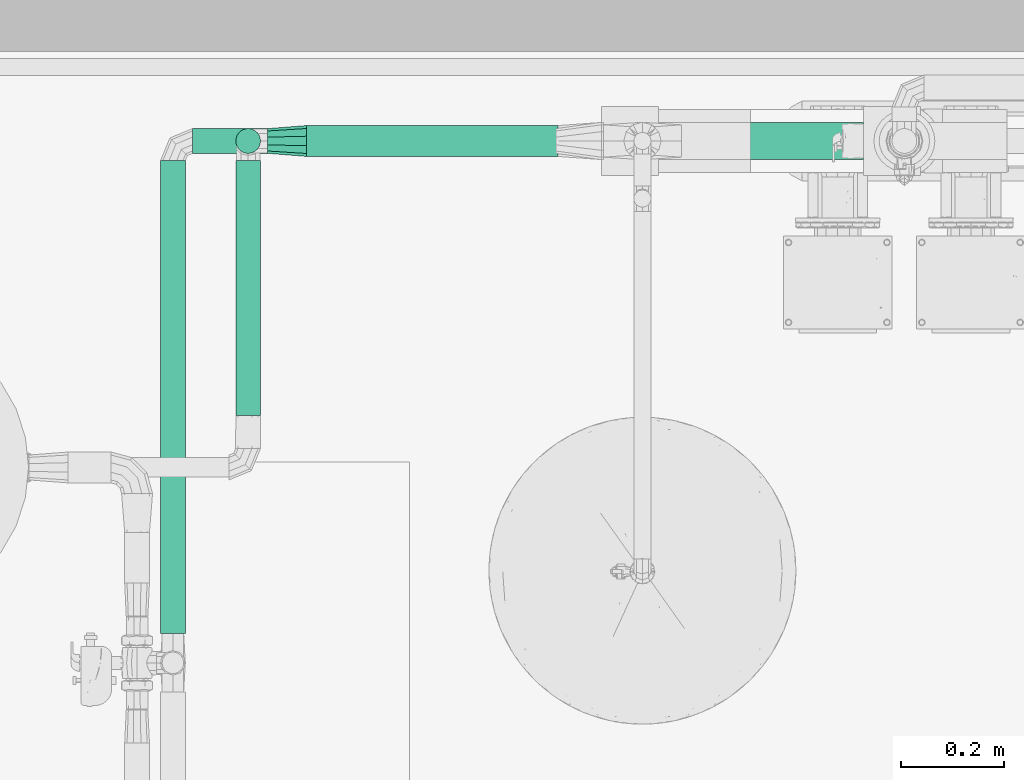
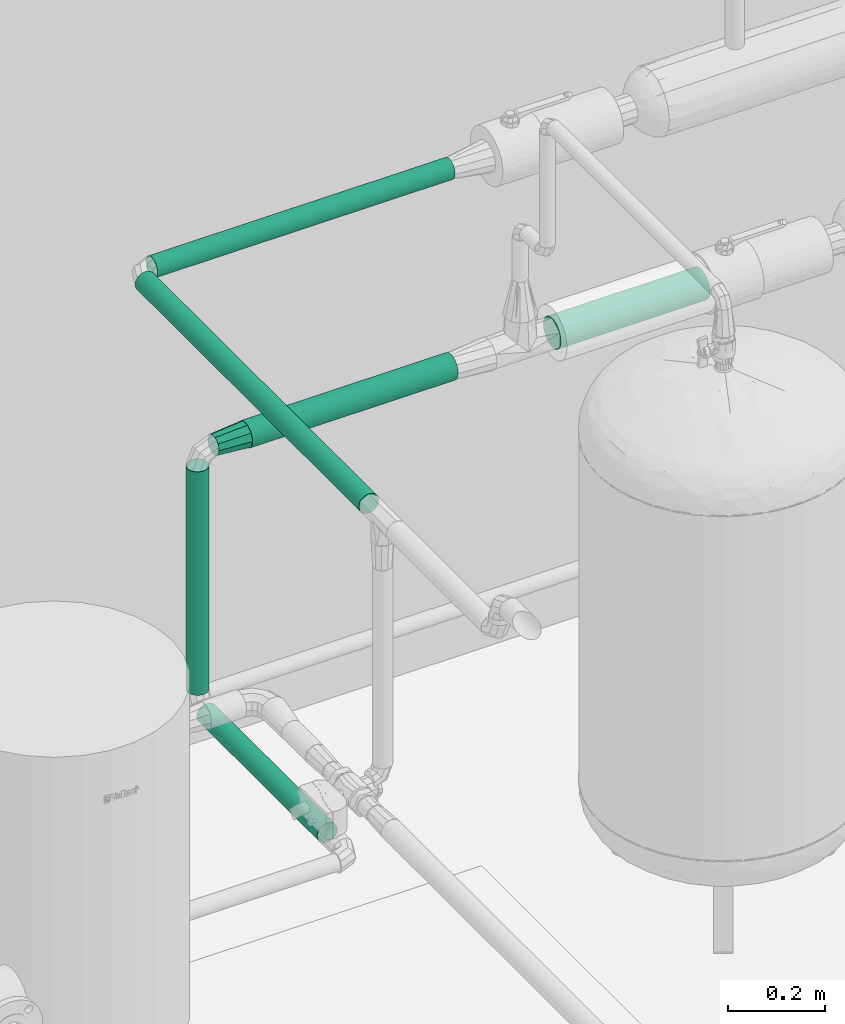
# One storey, part 70 of 94: 6 flow segments, 1 flow fitting.
"""IFC2X3 building model written with IfcOpenShell, lengths in millimetres."""

from ifc_helpers import new_model, entity, si_unit, converted_unit, derived_unit, direction, frame, frame_2d, origin, origin_2d_with_axis, place, context, subcontext, project, spatial, circle, extrude, faceted_brep, source, transform, mapped, material, type_object, type_shapes, element, save


model = new_model("IFC2X3")

# Units and contexts
model_context = context("Model", 3, precision=0.01, world=origin(), true_north=direction((6.123031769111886e-17, 1.0)))
body_context = subcontext(model_context, "Body", "Model", "MODEL_VIEW")
ifc_project = project(units=[si_unit("LENGTHUNIT", "METRE", prefix="MILLI"), si_unit("AREAUNIT", "SQUARE_METRE"), si_unit("VOLUMEUNIT", "CUBIC_METRE"), converted_unit("PLANEANGLEUNIT", "DEGREE", entity("IfcRatioMeasure", 0.017453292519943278), si_unit("PLANEANGLEUNIT", "RADIAN"), dimensions=[0, 0, 0, 0, 0, 0, 0]), si_unit("MASSUNIT", "GRAM", prefix="KILO"), derived_unit("MASSDENSITYUNIT", [(si_unit("MASSUNIT", "GRAM", prefix="KILO"), 1), (si_unit("LENGTHUNIT", "METRE"), -3)]), derived_unit("IONCONCENTRATIONUNIT", [(si_unit("MASSUNIT", "GRAM", prefix="KILO"), 1), (si_unit("LENGTHUNIT", "METRE"), -3)]), derived_unit("MOMENTOFINERTIAUNIT", [(si_unit("LENGTHUNIT", "METRE"), 4)]), si_unit("TIMEUNIT", "SECOND"), si_unit("FREQUENCYUNIT", "HERTZ"), si_unit("THERMODYNAMICTEMPERATUREUNIT", "DEGREE_CELSIUS"), derived_unit("THERMALTRANSMITTANCEUNIT", [(si_unit("MASSUNIT", "GRAM", prefix="KILO"), 1), (si_unit("THERMODYNAMICTEMPERATUREUNIT", "KELVIN"), -1), (si_unit("TIMEUNIT", "SECOND"), -3)]), derived_unit("THERMALCONDUCTANCEUNIT", [(si_unit("MASSUNIT", "GRAM", prefix="KILO"), 1), (si_unit("THERMODYNAMICTEMPERATUREUNIT", "KELVIN"), -1), (si_unit("TIMEUNIT", "SECOND"), -3), (si_unit("LENGTHUNIT", "METRE"), 1)]), derived_unit("VOLUMETRICFLOWRATEUNIT", [(si_unit("LENGTHUNIT", "METRE"), 3), (si_unit("TIMEUNIT", "SECOND"), -1)]), derived_unit("MASSFLOWRATEUNIT", [(si_unit("MASSUNIT", "GRAM", prefix="KILO"), 1), (si_unit("TIMEUNIT", "SECOND"), -1)]), derived_unit("ROTATIONALFREQUENCYUNIT", [(si_unit("TIMEUNIT", "SECOND"), -1)]), si_unit("ELECTRICCURRENTUNIT", "AMPERE"), si_unit("ELECTRICVOLTAGEUNIT", "VOLT"), si_unit("POWERUNIT", "WATT"), si_unit("FORCEUNIT", "NEWTON", prefix="KILO"), si_unit("ILLUMINANCEUNIT", "LUX"), si_unit("LUMINOUSFLUXUNIT", "LUMEN"), si_unit("LUMINOUSINTENSITYUNIT", "CANDELA"), derived_unit("USERDEFINED", [(si_unit("MASSUNIT", "GRAM", prefix="KILO"), -1), (si_unit("LENGTHUNIT", "METRE"), -2), (si_unit("TIMEUNIT", "SECOND"), 3), (si_unit("LUMINOUSFLUXUNIT", "LUMEN"), 1)]), derived_unit("USERDEFINED", [(si_unit("MASSUNIT", "GRAM", prefix="KILO"), 1), (si_unit("TIMEUNIT", "SECOND"), -3), (si_unit("LENGTHUNIT", "METRE"), 3), (si_unit("ELECTRICCURRENTUNIT", "AMPERE"), -2)]), derived_unit("SOUNDPOWERUNIT", [(si_unit("MASSUNIT", "GRAM", prefix="KILO"), 1), (si_unit("TIMEUNIT", "SECOND"), -3), (si_unit("LENGTHUNIT", "METRE"), 2)]), derived_unit("SOUNDPRESSUREUNIT", [(si_unit("MASSUNIT", "GRAM", prefix="KILO"), 1), (si_unit("LENGTHUNIT", "METRE"), -1), (si_unit("TIMEUNIT", "SECOND"), -2)]), derived_unit("LINEARVELOCITYUNIT", [(si_unit("LENGTHUNIT", "METRE"), 1), (si_unit("TIMEUNIT", "SECOND"), -1)]), si_unit("PRESSUREUNIT", "PASCAL"), derived_unit("USERDEFINED", [(si_unit("MASSUNIT", "GRAM", prefix="KILO"), 1), (si_unit("LENGTHUNIT", "METRE"), -2), (si_unit("TIMEUNIT", "SECOND"), -2)]), derived_unit("LINEARFORCEUNIT", [(si_unit("MASSUNIT", "GRAM", prefix="KILO"), 1), (si_unit("TIMEUNIT", "SECOND"), -2)]), derived_unit("PLANARFORCEUNIT", [(si_unit("MASSUNIT", "GRAM", prefix="KILO"), 1), (si_unit("LENGTHUNIT", "METRE"), -1), (si_unit("TIMEUNIT", "SECOND"), -2)]), derived_unit("SPECIFICHEATCAPACITYUNIT", [(si_unit("THERMODYNAMICTEMPERATUREUNIT", "KELVIN"), -1), (si_unit("LENGTHUNIT", "METRE"), 2), (si_unit("TIMEUNIT", "SECOND"), -2)]), derived_unit("HEATINGVALUEUNIT", [(si_unit("LENGTHUNIT", "METRE"), 2), (si_unit("TIMEUNIT", "SECOND"), -2)]), derived_unit("VAPORPERMEABILITYUNIT", [(si_unit("LENGTHUNIT", "METRE"), -1), (si_unit("TIMEUNIT", "SECOND"), 1)]), derived_unit("DYNAMICVISCOSITYUNIT", [(si_unit("MASSUNIT", "GRAM", prefix="KILO"), 1), (si_unit("TIMEUNIT", "SECOND"), -1), (si_unit("LENGTHUNIT", "METRE"), -1)]), derived_unit("THERMALEXPANSIONCOEFFICIENTUNIT", [(si_unit("THERMODYNAMICTEMPERATUREUNIT", "KELVIN"), -1)]), derived_unit("MODULUSOFELASTICITYUNIT", [(si_unit("MASSUNIT", "GRAM", prefix="KILO"), 1), (si_unit("LENGTHUNIT", "METRE"), -1), (si_unit("TIMEUNIT", "SECOND"), -2)]), derived_unit("ISOTHERMALMOISTURECAPACITYUNIT", [(si_unit("LENGTHUNIT", "METRE"), 3), (si_unit("MASSUNIT", "GRAM", prefix="KILO"), -1)]), derived_unit("MOISTUREDIFFUSIVITYUNIT", [(si_unit("TIMEUNIT", "SECOND"), -1), (si_unit("LENGTHUNIT", "METRE"), 2)])], contexts=[model_context])

# Site, building, storey
site_placement = place(None, origin())
site = spatial("IfcSite", under=ifc_project, at=site_placement, Name="Default", CompositionType="ELEMENT")
building_placement = place(site_placement, origin())
building = spatial("IfcBuilding", under=site, at=building_placement, CompositionType="ELEMENT")
storey_placement = place(building_placement, origin())
storey = spatial("IfcBuildingStorey", under=building, at=storey_placement, Name="Niveau 0", CompositionType="ELEMENT", Elevation=0.0)

# Flow segments
pipe_segment_type_1 = type_object("IfcPipeSegmentType", Name="Canalisation:Bride acier", PredefinedType="NOTDEFINED")
flow_segment_1_placement = place(storey_placement, origin())
element("IfcFlowSegment", 1, at=flow_segment_1_placement, inside=storey, type_object=pipe_segment_type_1, Name="Canalisation:Bride acier", ObjectType="Canalisation:Bride acier", context=body_context, shape_type="SweptSolid", body=[
    extrude(circle(Radius=24.13, at=frame_2d((0.0, -2.707167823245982e-13), x_axis=(1.0, 0.0))), frame((-11799.29070422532, 8961.163679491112, 1377.599999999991), z_axis=(0.0, 1.0, 0.0), x_axis=(1.0, 0.0, 0.0)), (0.0, 0.0, 1.0), 923.3068666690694),
])
flow_segment_2_placement = place(storey_placement, origin())
element("IfcFlowSegment", 2, at=flow_segment_2_placement, inside=storey, type_object=pipe_segment_type_1, Name="Canalisation:Bride acier", ObjectType="Canalisation:Bride acier", context=body_context, shape_type="SweptSolid", body=[
    extrude(circle(Radius=24.13, at=origin_2d_with_axis()), frame((-11761.29070422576, 9922.470546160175, 1377.600182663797), z_axis=(1.0, 0.0, 4.617865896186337e-06), x_axis=(0.0, 1.0, 0.0)), (0.0, 0.0, 1.0), 709.1774860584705),
])
pipe_segment_type_2 = type_object("IfcPipeSegmentType", Name="Canalisation:Standard", PredefinedType="NOTDEFINED")
flow_segment_3_placement = place(storey_placement, origin())
element("IfcFlowSegment", 3, at=flow_segment_3_placement, inside=storey, type_object=pipe_segment_type_2, Name="Canalisation:Standard", ObjectType="Canalisation:Standard", context=body_context, shape_type="SweptSolid", body=[
    extrude(circle(Radius=36.5125, at=frame_2d((0.0, 1.353583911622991e-13), x_axis=(1.0, 0.0))), frame((-10807.233218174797, 9922.470546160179, 877.6034575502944), z_axis=(1.0, 0.0, 0.0), x_axis=(0.0, 1.0, 0.0)), (0.0, 0.0, 1.0), 355.2073526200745),
])
flow_segment_4_placement = place(storey_placement, origin())
element("IfcFlowSegment", 4, at=flow_segment_4_placement, inside=storey, type_object=pipe_segment_type_2, Name="Canalisation:Standard", ObjectType="Canalisation:Standard", context=body_context, shape_type="SweptSolid", body=[
    extrude(circle(Radius=30.162500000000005, at=frame_2d((-1.5160139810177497e-11, -1.353583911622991e-13), x_axis=(1.0, 0.0))), frame((-11538.538466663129, 9922.470546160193, 877.6034575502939), z_axis=(1.0, 0.0, 0.0), x_axis=(0.0, 1.0, 0.0)), (0.0, 0.0, 1.0), 490.30524848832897),
])
flow_segment_5_placement = place(storey_placement, origin())
element("IfcFlowSegment", 5, at=flow_segment_5_placement, inside=storey, type_object=pipe_segment_type_2, Name="Canalisation:Standard", ObjectType="Canalisation:Standard", context=body_context, shape_type="SweptSolid", body=[
    extrude(circle(Radius=24.13, at=frame_2d((0.0, -3.383959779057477e-14), x_axis=(1.0, 0.0))), frame((-11652.53846666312, 9386.851397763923, 238.3331676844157), z_axis=(0.0, 1.0, 0.0), x_axis=(-1.0, 0.0, 0.0)), (0.0, 0.0, 1.0), 497.6191483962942),
])
flow_segment_6_placement = place(storey_placement, origin())
element("IfcFlowSegment", 6, at=flow_segment_6_placement, inside=storey, type_object=pipe_segment_type_2, Name="Canalisation:Standard", ObjectType="Canalisation:Standard", context=body_context, shape_type="SweptSolid", body=[
    extrude(circle(Radius=24.13, at=origin_2d_with_axis()), frame((-11652.538466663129, 9922.470546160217, 276.3331676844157)), (0.0, 0.0, 1.0), 563.2702898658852),
])

# Flow fitting
ifc_material = material(Name="<Unnamed>")
pipe_fitting_type = type_object("IfcPipeFittingType", Name="Transformation - Générique:Standard", PredefinedType="NOTDEFINED", material=ifc_material)
shared_shape = source(origin(), body_context, "Body", "Brep", [
    faceted_brep([(76.0, 24.149999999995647, 0.0), (76.0, 21.843880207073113, 7.097506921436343), (76.0, 19.53776041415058, 14.195013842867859), (76.0, 13.500260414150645, 18.5815143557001), (76.0, 7.462760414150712, 22.968014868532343), (76.0, 0.0, 22.9680148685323), (76.0, -7.462760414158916, 22.968014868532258), (76.0, -13.500260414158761, 18.581514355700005), (76.0, -19.53776041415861, 14.195013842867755), (76.0, -21.843880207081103, 7.097506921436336), (76.0, -24.15000000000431, 0.0), (76.0, -21.843880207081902, -7.09750692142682), (76.0, -19.537760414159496, -14.195013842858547), (76.0, -13.500260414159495, -18.581514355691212), (76.0, -7.4627604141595, -22.96801486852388), (76.0, 0.0, -22.968014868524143), (76.0, 7.462760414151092, -22.968014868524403), (76.0, 13.50026041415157, -18.581514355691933), (76.0, 19.537760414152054, -14.195013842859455), (76.0, 21.84388020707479, -7.097506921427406), (0.0, -30.149999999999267, 0.0), (0.0, -27.270931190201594, 8.860862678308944), (0.0, -24.39186238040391, 17.721725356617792), (0.0, -16.85436238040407, 23.19803966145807), (0.0, -9.316862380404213, 28.674353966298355), (0.0, 0.0, 28.67435396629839), (0.0, 9.316862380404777, 28.674353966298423), (0.0, 16.854362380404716, 23.198039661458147), (0.0, 24.391862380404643, 17.721725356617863), (0.0, 26.332850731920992, 11.747977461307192), (0.0, 28.24142536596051, 5.873988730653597), (0.0, 30.150000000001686, 0.0), (0.0, 27.270931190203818, -8.860862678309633), (0.0, 24.391862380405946, -17.721725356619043), (0.0, 16.854362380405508, -23.198039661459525), (0.0, 9.316862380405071, -28.674353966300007), (0.0, 0.0, -28.674353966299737), (0.0, -9.316862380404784, -28.674353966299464), (0.0, -16.85436238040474, -23.198039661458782), (0.0, -24.39186238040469, -17.721725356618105), (0.0, -26.332850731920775, -11.747977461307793), (0.0, -28.241425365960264, -5.873988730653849)], [[[0, 1, 2, 3, 4, 5, 6, 7, 8, 9, 10, 11, 12, 13, 14, 15, 16, 17, 18, 19]], [[20, 21, 22, 23, 24, 25, 26, 27, 28, 29, 30, 31, 32, 33, 34, 35, 36, 37, 38, 39, 40, 41]], [[19, 18, 33, 32, 31, 0]], [[36, 35, 16, 15, 14, 37]], [[35, 34, 33, 18, 17, 16]], [[41, 40, 39, 12, 11, 10, 20]], [[14, 13, 12, 39, 38, 37]], [[9, 8, 22, 21, 20, 10]], [[25, 24, 6, 5, 4, 26]], [[24, 23, 22, 8, 7, 6]], [[30, 29, 28, 2, 1, 0, 31]], [[4, 3, 2, 28, 27, 26]]]),
])
type_shapes(pipe_fitting_type, [shared_shape])
flow_fitting_placement = place(storey_placement, frame((-11538.538466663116, 9922.470546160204, 877.603457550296), z_axis=(0.0, 0.0, 1.0), x_axis=(-1.0, 0.0, 0.0)))
element("IfcFlowFitting", 7, at=flow_fitting_placement, inside=storey, type_object=pipe_fitting_type, material=ifc_material, Name="Transformation - Générique:Standard", ObjectType="Transformation - Générique:Standard", context=body_context, shape_type="MappedRepresentation", body=[
    mapped(shared_shape, transform((0.0, 0.0, 0.0), scale=1.0)),
])

save(model, "model.ifc")
